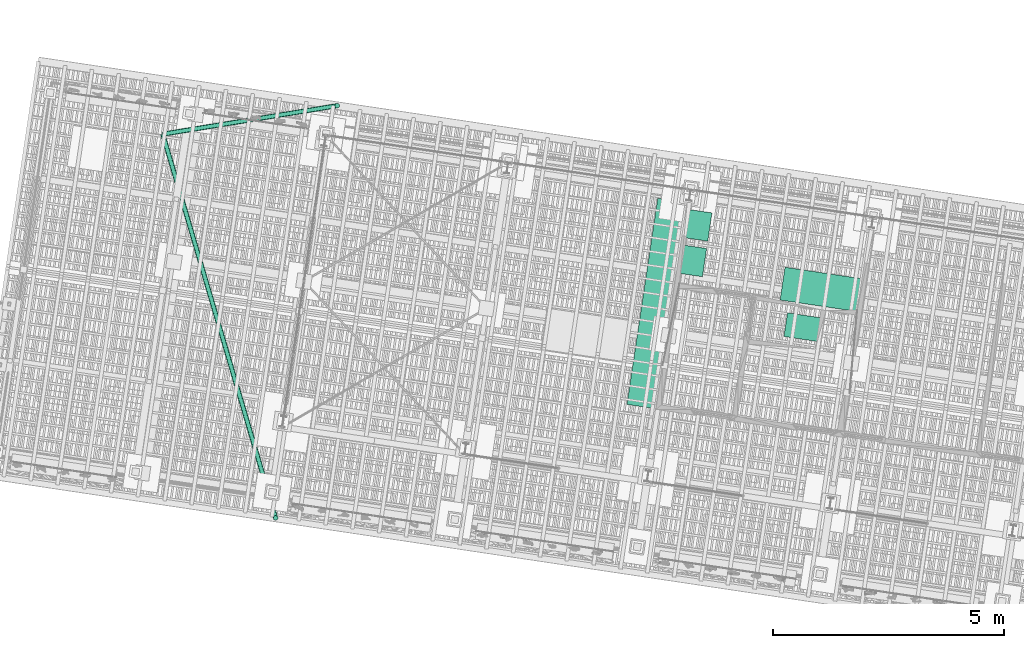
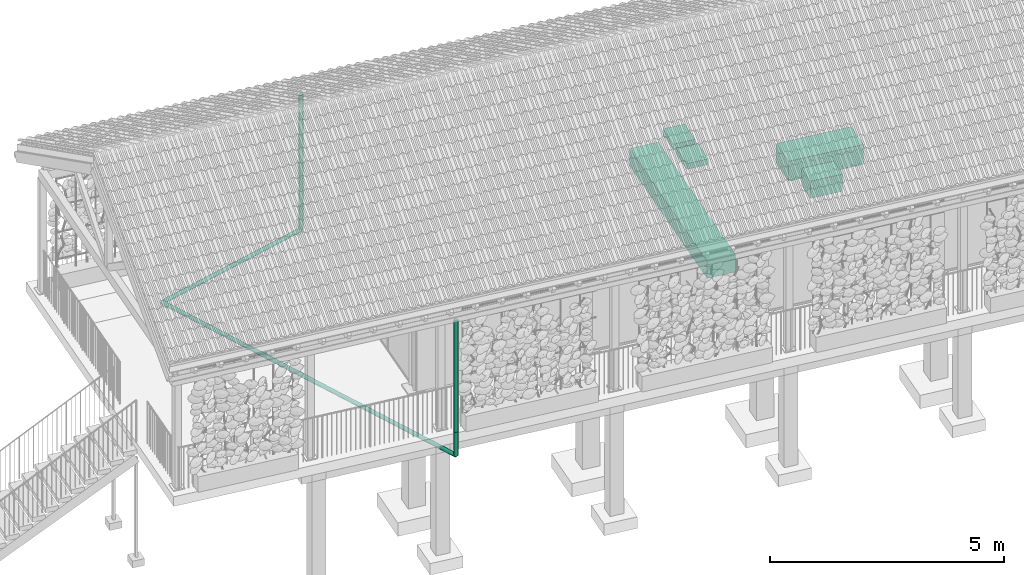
# One storey, part 129 of 131: 6 pipe segments, 5 sanitary terminals.
"""IFC4 building model written with IfcOpenShell, lengths in metres."""

from ifc_helpers import new_model, si_unit, direction, frame, origin_with_axes, place, context, subcontext, project, spatial, polyline, circle, outline, extrude, material, material_profile, profile_set, profile_usage, type_object, element, save


model = new_model("IFC4")

# Units and contexts
model_context = context("Model", 3, precision=1e-05, world=origin_with_axes(), true_north=direction((0.0, 1.0)))
body_context = subcontext(model_context, "Body", "Model", "MODEL_VIEW")
ifc_project = project(units=[si_unit("VOLUMEUNIT", "CUBIC_METRE"), si_unit("LENGTHUNIT", "METRE"), si_unit("AREAUNIT", "SQUARE_METRE")], contexts=[model_context])

# Site, building, storey
site_placement = place(None, origin_with_axes())
site = spatial("IfcSite", under=ifc_project, at=site_placement, Name="Lares · Rua das Mercês · artigo 4771")
building_placement = place(site_placement, frame((15.0, 9.7, 15.8), z_axis=(0.0, 0.0, 1.0), x_axis=(0.989015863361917, -0.147809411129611, 0.0)))
building = spatial("IfcBuilding", under=site, at=building_placement, Name="Casa Sobreposta")
storey_placement = place(building_placement, origin_with_axes())
storey = spatial("IfcBuildingStorey", under=building, at=storey_placement, Name="00 · Habitação e estacionamento", Elevation=15.8)

# Pipe segments
ifc_material_1 = material(Name="Aço galvanizado / Stahl verzinkt", Category="steel")
ifc_material_profile = material_profile(ifc_material_1, circle(Radius=0.05))
ifc_profile_set = profile_set([ifc_material_profile], Name="D0.10")
ifc_profile_usage_1 = profile_usage(ifc_profile_set)
pipe_segment_type = type_object("IfcPipeSegmentType", Name="D0.10 / galvanized", PredefinedType="NOTDEFINED", material=ifc_profile_set)
pipe_segment_1_placement = place(storey_placement, frame((0.15, -1.97, 3.08), z_axis=(0.0, 0.0, -1.0), x_axis=(1.0, 0.0, 0.0)))
element("IfcPipeSegment", 1, at=pipe_segment_1_placement, inside=storey, type_object=pipe_segment_type, material=ifc_profile_usage_1, Name="Pluvial cobertura · circuito limpo até cisterna", context=body_context, shape_type="SweptSolid", body=[
    extrude(circle(Radius=0.05), origin_with_axes(), (0.0, 0.0, 1.0), 2.9),
])
ifc_profile_usage_2 = profile_usage(ifc_profile_set)
pipe_segment_2_placement = place(storey_placement, frame((0.15, -1.97, 0.18), z_axis=(0.0, 0.0, -1.0), x_axis=(1.0, 0.0, 0.0)))
element("IfcPipeSegment", 2, at=pipe_segment_2_placement, inside=storey, type_object=pipe_segment_type, material=ifc_profile_usage_2, Name="Pluvial cobertura · circuito limpo até cisterna", context=body_context, shape_type="SweptSolid", body=[
    extrude(circle(Radius=0.05), origin_with_axes(), (0.0, 0.0, 1.0), 0.63),
])
ifc_profile_usage_3 = profile_usage(ifc_profile_set)
pipe_segment_3_placement = place(storey_placement, frame((0.15, -1.97, -0.45), z_axis=(-0.420626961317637, 0.90694087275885, -0.023048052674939), x_axis=(0.907181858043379, 0.420738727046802, 0.0)))
element("IfcPipeSegment", 3, at=pipe_segment_3_placement, inside=storey, type_object=pipe_segment_type, material=ifc_profile_usage_3, Name="Pluvial cobertura · circuito limpo até cisterna", context=body_context, shape_type="SweptSolid", body=[
    extrude(circle(Radius=0.05), origin_with_axes(), (0.0, 0.0, 1.0), 8.67752268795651),
])
ifc_profile_usage_4 = profile_usage(ifc_profile_set)
pipe_segment_4_placement = place(storey_placement, frame((0.15, 7.07, 3.08), z_axis=(0.0, 0.0, -1.0), x_axis=(1.0, 0.0, 0.0)))
element("IfcPipeSegment", 4, at=pipe_segment_4_placement, inside=storey, type_object=pipe_segment_type, material=ifc_profile_usage_4, Name="Pluvial cobertura · circuito limpo até cisterna", context=body_context, shape_type="SweptSolid", body=[
    extrude(circle(Radius=0.05), origin_with_axes(), (0.0, 0.0, 1.0), 2.9),
])
ifc_profile_usage_5 = profile_usage(ifc_profile_set)
pipe_segment_5_placement = place(storey_placement, frame((0.15, 7.07, 0.18), z_axis=(0.0, 0.0, -1.0), x_axis=(1.0, 0.0, 0.0)))
element("IfcPipeSegment", 5, at=pipe_segment_5_placement, inside=storey, type_object=pipe_segment_type, material=ifc_profile_usage_5, Name="Pluvial cobertura · circuito limpo até cisterna", context=body_context, shape_type="SweptSolid", body=[
    extrude(circle(Radius=0.05), origin_with_axes(), (0.0, 0.0, 1.0), 0.63),
])
ifc_profile_usage_6 = profile_usage(ifc_profile_set)
pipe_segment_6_placement = place(storey_placement, frame((0.15, 7.07, -0.45), z_axis=(-0.950978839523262, -0.304834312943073, -0.0521084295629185), x_axis=(-0.305249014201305, 0.952272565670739, 0.0)))
element("IfcPipeSegment", 6, at=pipe_segment_6_placement, inside=storey, type_object=pipe_segment_type, material=ifc_profile_usage_6, Name="Pluvial cobertura · circuito limpo até cisterna", context=body_context, shape_type="SweptSolid", body=[
    extrude(circle(Radius=0.05), origin_with_axes(), (0.0, 0.0, 1.0), 3.83815059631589),
])

# Sanitary terminals
ifc_material_2 = material(Name="Cerâmica sanitária — esquema", Category="ceramic")
sanitary_terminal_1_placement = place(storey_placement, origin_with_axes())
element("IfcSanitaryTerminal", 7, at=sanitary_terminal_1_placement, inside=storey, material=ifc_material_2, Name="Banheira", PredefinedType="BATH", context=body_context, shape_type="SweptSolid", body=[
    extrude(outline(polyline([(11.991, 4.32099999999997), (11.991, 5.041), (10.271, 5.041), (10.271, 4.32099999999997), (11.991, 4.32099999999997)])), origin_with_axes(), (0.0, 0.0, 1.0), 0.52),
])
sanitary_terminal_2_placement = place(storey_placement, frame((0.0, 0.0, 0.72), z_axis=(0.0, 0.0, 1.0), x_axis=(1.0, 0.0, 0.0)))
element("IfcSanitaryTerminal", 8, at=sanitary_terminal_2_placement, inside=storey, material=ifc_material_2, Name="Lavatório 1", PredefinedType="WASHHANDBASIN", context=body_context, shape_type="SweptSolid", body=[
    extrude(outline(polyline([(8.53099999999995, 4.57099999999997), (8.53099999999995, 5.19099999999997), (8.03099999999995, 5.19099999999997), (8.03099999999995, 4.57099999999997), (8.53099999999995, 4.57099999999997)])), origin_with_axes(), (0.0, 0.0, 1.0), 0.15),
])
sanitary_terminal_3_placement = place(storey_placement, frame((0.0, 0.0, 0.72), z_axis=(0.0, 0.0, 1.0), x_axis=(1.0, 0.0, 0.0)))
element("IfcSanitaryTerminal", 9, at=sanitary_terminal_3_placement, inside=storey, material=ifc_material_2, Name="Lavatório 2", PredefinedType="WASHHANDBASIN", context=body_context, shape_type="SweptSolid", body=[
    extrude(outline(polyline([(8.53099999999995, 5.351), (8.53099999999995, 5.971), (8.03099999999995, 5.971), (8.03099999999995, 5.351), (8.53099999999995, 5.351)])), origin_with_axes(), (0.0, 0.0, 1.0), 0.15),
])
sanitary_terminal_4_placement = place(storey_placement, origin_with_axes())
element("IfcSanitaryTerminal", 10, at=sanitary_terminal_4_placement, inside=storey, material=ifc_material_2, Name="Sanita", PredefinedType="TOILETPAN", context=body_context, shape_type="SweptSolid", body=[
    extrude(outline(polyline([(11.211, 3.55099999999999), (11.211, 4.07099999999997), (10.471, 4.07099999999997), (10.471, 3.55099999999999), (11.211, 3.55099999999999)])), origin_with_axes(), (0.0, 0.0, 1.0), 0.45),
])
sanitary_terminal_5_placement = place(storey_placement, origin_with_axes())
element("IfcSanitaryTerminal", 11, at=sanitary_terminal_5_placement, inside=storey, material=ifc_material_2, Name="Bancada de cozinha", PredefinedType="TOILETPAN", context=body_context, shape_type="SweptSolid", body=[
    extrude(outline(polyline([(7.98099999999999, 1.59100000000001), (7.98099999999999, 6.11099999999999), (7.32099999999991, 6.11099999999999), (7.32099999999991, 1.59100000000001), (7.98099999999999, 1.59100000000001)])), origin_with_axes(), (0.0, 0.0, 1.0), 0.45),
])

save(model, "model.ifc")
